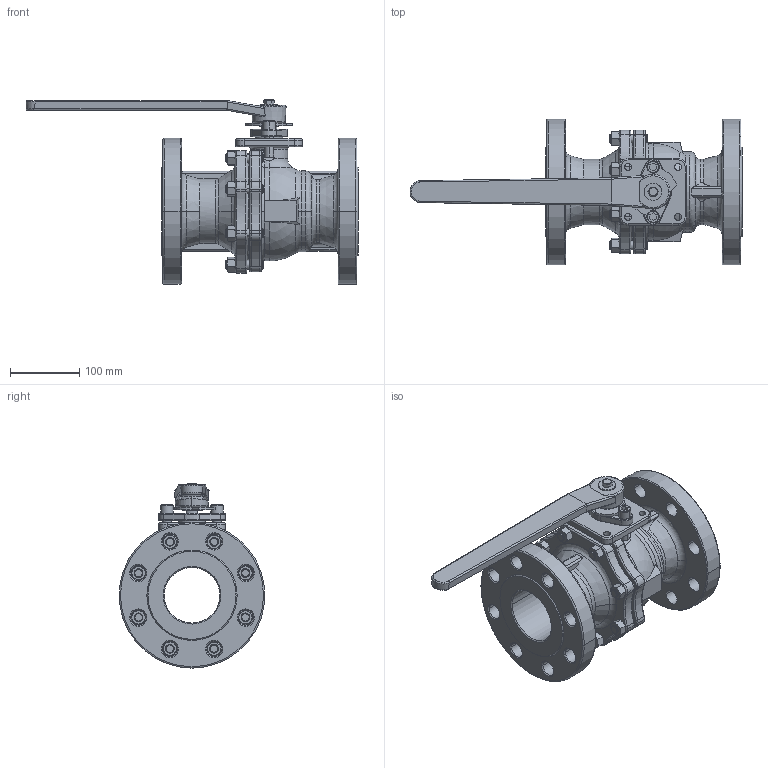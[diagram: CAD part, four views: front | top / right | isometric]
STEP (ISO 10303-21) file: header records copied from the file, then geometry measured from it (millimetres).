
FILE_DESCRIPTION(('Open CASCADE Model'),'2;1');
FILE_NAME('Open CASCADE Shape Model','2021-11-19T08:17:16',('Author'),( 'Open CASCADE'),'Open CASCADE STEP processor 7.3','Open CASCADE 7.3' ,'Unknown');
FILE_SCHEMA(('AUTOMOTIVE_DESIGN { 1 0 10303 214 1 1 1 1 }'));
Length unit declared in the file: millimetre
Products named in the file (35): Open CASCADE STEP translator 7.3 1; Open CASCADE STEP translator 7.3 1.1; Open CASCADE STEP translator 7.3 1.2; Open CASCADE STEP translator 7.3 1.3; Open CASCADE STEP translator 7.3 1.4; Open CASCADE STEP translator 7.3 1.5; Open CASCADE STEP translator 7.3 1.6; Open CASCADE STEP translator 7.3 1.7; Open CASCADE STEP translator 7.3 1.8; Open CASCADE STEP translator 7.3 1.9; Open CASCADE STEP translator 7.3 1.10; Open CASCADE STEP translator 7.3 1.11; Open CASCADE STEP translator 7.3 1.12; Open CASCADE STEP translator 7.3 1.13; Open CASCADE STEP translator 7.3 1.14; Open CASCADE STEP translator 7.3 1.15; Open CASCADE STEP translator 7.3 1.16; Open CASCADE STEP translator 7.3 1.17; Open CASCADE STEP translator 7.3 1.18; Open CASCADE STEP translator 7.3 1.19; Open CASCADE STEP translator 7.3 1.20; Open CASCADE STEP translator 7.3 1.21; Open CASCADE STEP translator 7.3 1.22; Open CASCADE STEP translator 7.3 1.23; Open CASCADE STEP translator 7.3 1.24; Open CASCADE STEP translator 7.3 1.25; Open CASCADE STEP translator 7.3 1.26; Open CASCADE STEP translator 7.3 1.27; Open CASCADE STEP translator 7.3 1.28; Open CASCADE STEP translator 7.3 1.29; Open CASCADE STEP translator 7.3 1.30; Open CASCADE STEP translator 7.3 1.31; Open CASCADE STEP translator 7.3 1.32; Open CASCADE STEP translator 7.3 1.33; Open CASCADE STEP translator 7.3 1.34
Assembly tree (34 placements, depth 2):
  Open CASCADE STEP translator 7.3 1
    Open CASCADE STEP translator 7.3 1.1
    Open CASCADE STEP translator 7.3 1.2
    Open CASCADE STEP translator 7.3 1.3
    Open CASCADE STEP translator 7.3 1.4
    Open CASCADE STEP translator 7.3 1.5
    Open CASCADE STEP translator 7.3 1.6
    Open CASCADE STEP translator 7.3 1.7
    Open CASCADE STEP translator 7.3 1.8
    Open CASCADE STEP translator 7.3 1.9
    Open CASCADE STEP translator 7.3 1.10
    Open CASCADE STEP translator 7.3 1.11
    Open CASCADE STEP translator 7.3 1.12
    Open CASCADE STEP translator 7.3 1.13
    Open CASCADE STEP translator 7.3 1.14
    Open CASCADE STEP translator 7.3 1.15
    Open CASCADE STEP translator 7.3 1.16
    Open CASCADE STEP translator 7.3 1.17
    Open CASCADE STEP translator 7.3 1.18
    Open CASCADE STEP translator 7.3 1.19
    Open CASCADE STEP translator 7.3 1.20
    Open CASCADE STEP translator 7.3 1.21
    Open CASCADE STEP translator 7.3 1.22
    Open CASCADE STEP translator 7.3 1.23
    Open CASCADE STEP translator 7.3 1.24
    Open CASCADE STEP translator 7.3 1.25
    Open CASCADE STEP translator 7.3 1.26
    Open CASCADE STEP translator 7.3 1.27
    Open CASCADE STEP translator 7.3 1.28
    Open CASCADE STEP translator 7.3 1.29
    Open CASCADE STEP translator 7.3 1.30
    Open CASCADE STEP translator 7.3 1.31
    Open CASCADE STEP translator 7.3 1.32
    Open CASCADE STEP translator 7.3 1.33
    Open CASCADE STEP translator 7.3 1.34
Bounding box: 478.53 x 210 x 265.51 mm (x, y, z)
Volume: 3474527.6 mm3; surface area: 633853.5 mm2
Topology: 34 solids, 34 shells, 1010 faces, 2357 edges, 1437 vertices
Faces by surface type: cylinder 354, plane 248, cone 242, torus 142, sphere 16, bspline 8
Entity records: 79952 total; most frequent: CARTESIAN_POINT 32839, DIRECTION 8781, ORIENTED_EDGE 4706, PCURVE 4706, DEFINITIONAL_REPRESENTATION 4706, LINE 3947, VECTOR 3947, EDGE_CURVE 2353
